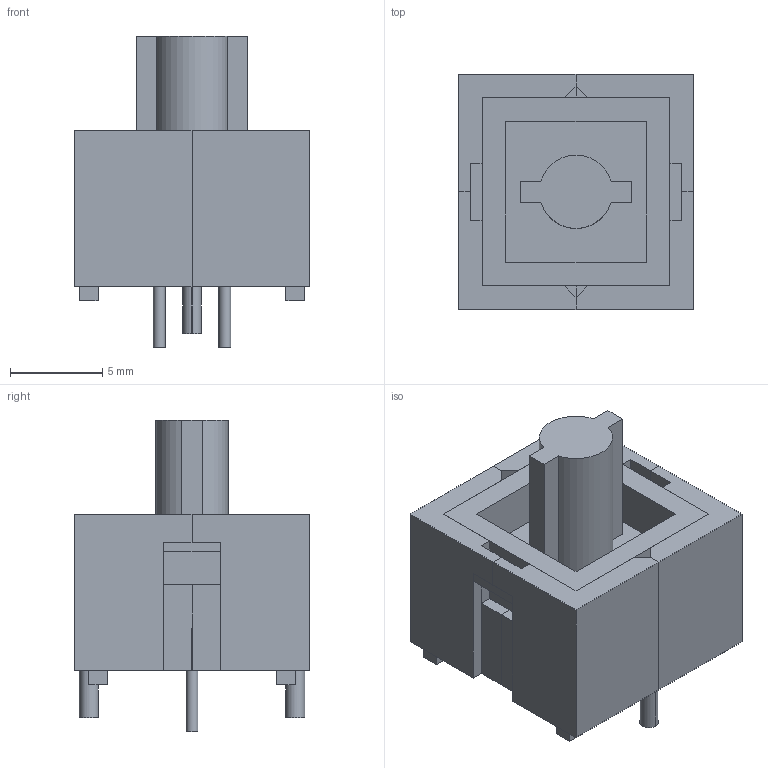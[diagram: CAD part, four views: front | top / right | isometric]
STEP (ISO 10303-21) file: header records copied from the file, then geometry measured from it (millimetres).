
FILE_DESCRIPTION(('FreeCAD Model'),'2;1');
FILE_NAME('Schematics/CV.3dshapes/Coleco_Button.stp','2020-09-11T00:20:19',('Author'),(''), 'Open CASCADE STEP processor 7.3','FreeCAD','Unknown');
FILE_SCHEMA(('AUTOMOTIVE_DESIGN { 1 0 10303 214 1 1 1 1 }'));
Length unit declared in the file: millimetre
Products named in the file (16): Push_Button; Inner_Catch; Outer_Catch; Shell_Base; Foot; Foot_Round; Lead001; Shell; Indent; Shell_(Mirror_#2); Shell_(Mirror_#1); Shell_(Mirror_#3); Leads; Leads_(Mirror_#4); Plunger_Base; Plunger
Assembly tree (15 placements, depth 2):
  Push_Button
    Inner_Catch
    Outer_Catch
    Shell_Base
    Foot
    Foot_Round
    Lead001
    Shell
    Indent
    Shell_(Mirror_#2)
    Shell_(Mirror_#1)
    Shell_(Mirror_#3)
    Leads
    Leads_(Mirror_#4)
    Plunger_Base
    Plunger
Bounding box: 12.7 x 12.7 x 16.84 mm (x, y, z)
Volume: 948.4 mm3; surface area: 1786.6 mm2
Topology: 7 solids, 7 shells, 140 faces, 364 edges, 271 vertices
Faces by surface type: plane 132, cylinder 8
Full cylindrical faces by diameter (mm): 0.635 x2
Entity records: 9022 total; most frequent: CARTESIAN_POINT 1516, DIRECTION 1362, LINE 1006, VECTOR 1006, ORIENTED_EDGE 676, PCURVE 676, DEFINITIONAL_REPRESENTATION 676, EDGE_CURVE 338
